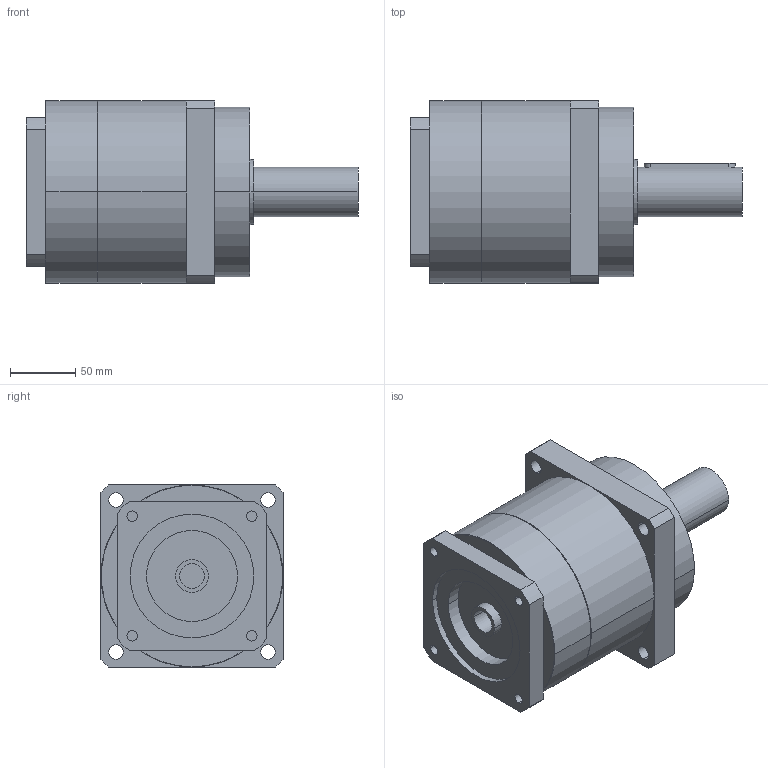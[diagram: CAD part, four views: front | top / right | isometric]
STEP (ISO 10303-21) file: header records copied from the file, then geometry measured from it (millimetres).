
FILE_DESCRIPTION(('CoCreate Modeling STEP Export'),'2;1');
FILE_NAME('GPR150_ig-3-4-5-7_38_B5_19_P10.stp','2014-08-19T16:42:12',(''),(''),'CoCreate Modeling STEP processor for AP214 (Solid Model)','CoCreate Modeling 16.00C 25-Feb-2009 (C) Parametric Technology GmbH','');
FILE_SCHEMA(('AUTOMOTIVE_DESIGN { 1 0 10303 214 1 1 1 1 }'));
Length unit declared in the file: millimetre
Products named in the file (2): GPR150_ig-3-4-5-7_38_B5_19_P10
Assembly tree (1 placements, depth 2):
  GPR150_ig-3-4-5-7_38_B5_19_P10
    GPR150_ig-3-4-5-7_38_B5_19_P10
Bounding box: 255 x 140 x 140 mm (x, y, z)
Volume: 2653022.5 mm3; surface area: 138503.7 mm2
Topology: 1 solids, 1 shells, 89 faces, 225 edges, 149 vertices
Faces by surface type: cylinder 46, plane 37, cone 6
Entity records: 2348 total; most frequent: ORIENTED_EDGE 446, CARTESIAN_POINT 430, DIRECTION 328, EDGE_CURVE 223, VERTEX_POINT 149, AXIS2_PLACEMENT_3D 119, EDGE_LOOP 110, VECTOR 90
